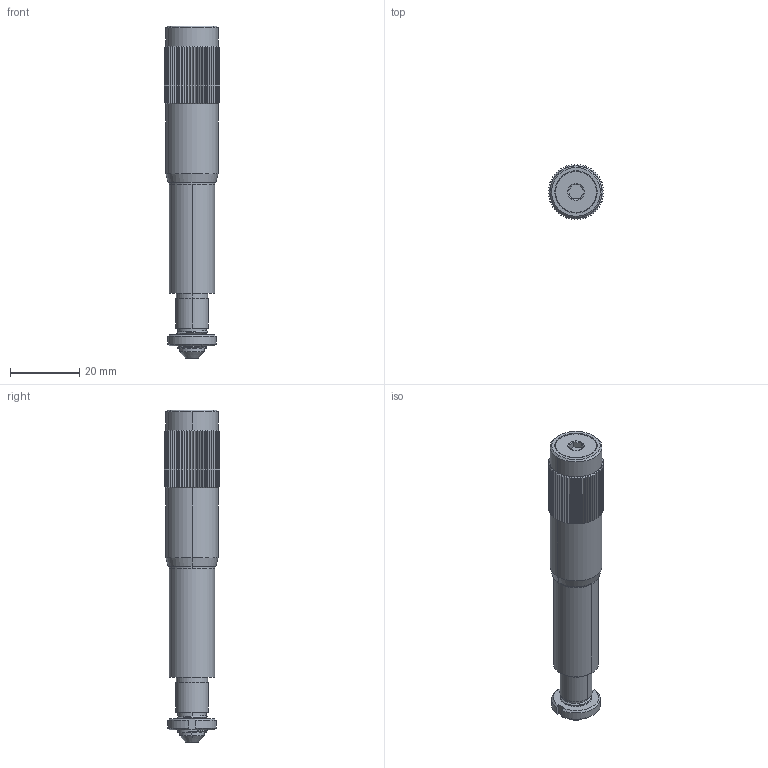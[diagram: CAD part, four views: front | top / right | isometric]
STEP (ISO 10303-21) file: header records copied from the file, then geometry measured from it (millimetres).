
FILE_DESCRIPTION((''),'2;1');
FILE_NAME('SM25_ASM','2021-01-19T',('Administrator'),(''),'CREO PARAMETRIC BY PTC INC, 2015290','CREO PARAMETRIC BY PTC INC, 2015290','');
FILE_SCHEMA(('CONFIG_CONTROL_DESIGN'));
Length unit declared in the file: millimetre
Products named in the file (7): SM25_A1; SM25_A2; SM25_A3; SM25_A4; SM25_A5; SM25_A6; SM25_ASM
Assembly tree (6 placements, depth 2):
  SM25_ASM
    SM25_A1
    SM25_A2
    SM25_A3
    SM25_A4
    SM25_A5
    SM25_A6
Bounding box: 15.98 x 15.98 x 95.6 mm (x, y, z)
Volume: 10448 mm3; surface area: 11836.2 mm2
Topology: 6 solids, 6 shells, 597 faces, 1632 edges, 1061 vertices
Faces by surface type: cylinder 311, plane 160, bspline 88, cone 38
Entity records: 37879 total; most frequent: CARTESIAN_POINT 24221, ORIENTED_EDGE 3260, DIRECTION 2138, EDGE_CURVE 1630, VERTEX_POINT 1061, B_SPLINE_CURVE_WITH_KNOTS 795, AXIS2_PLACEMENT_3D 781, EDGE_LOOP 621
